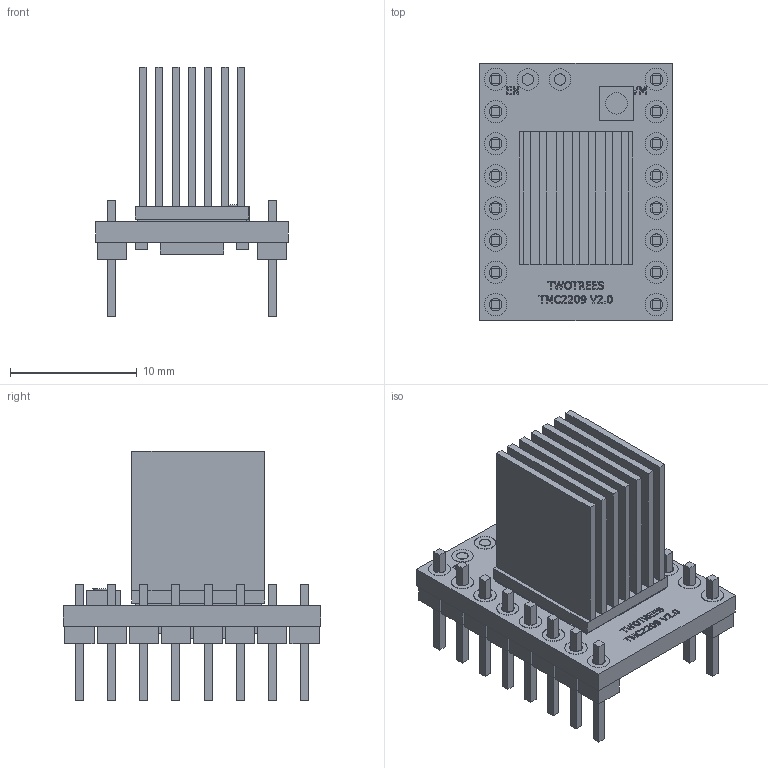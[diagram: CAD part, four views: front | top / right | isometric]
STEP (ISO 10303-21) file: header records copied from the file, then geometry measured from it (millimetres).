
FILE_DESCRIPTION(('Open CASCADE Model'),'2;1');
FILE_NAME('Open CASCADE Shape Model','2026-10-26T15:13:02',('Author'),( 'Open CASCADE'),'Open CASCADE STEP processor 7.8','Open CASCADE 7.8' ,'Unknown');
FILE_SCHEMA(('AUTOMOTIVE_DESIGN { 1 0 10303 214 1 1 1 1 }'));
Length unit declared in the file: millimetre
Products named in the file (81): TWOTREES_TMC2209_V20_COM_DISSIPADOR; pin_1; pad_1; header_spacer_1; pin_2; pad_2; header_spacer_2; pin_3; pad_3; header_spacer_3; pin_4; pad_4; header_spacer_4; pin_5; pad_5; header_spacer_5; pin_6; pad_6; header_spacer_6; pin_7; pad_7; header_spacer_7; pin_8; pad_8; header_spacer_8; pin_9; pad_9; header_spacer_9; pin_10; pad_10; header_spacer_10; pin_11; pad_11; header_spacer_11; pin_12; pad_12; header_spacer_12; pin_13; pad_13; header_spacer_13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
Assembly tree (80 placements, depth 2):
  TWOTREES_TMC2209_V20_COM_DISSIPADOR
    pin_1
    pad_1
    header_spacer_1
    pin_2
    pad_2
    header_spacer_2
    pin_3
    pad_3
    header_spacer_3
    pin_4
    pad_4
    header_spacer_4
    pin_5
    pad_5
    header_spacer_5
    pin_6
    pad_6
    header_spacer_6
    pin_7
    pad_7
    header_spacer_7
    pin_8
    pad_8
    header_spacer_8
    pin_9
    pad_9
    header_spacer_9
    pin_10
    pad_10
    header_spacer_10
    pin_11
    pad_11
    header_spacer_11
    pin_12
    pad_12
    header_spacer_12
    pin_13
    pad_13
    header_spacer_13
    pin_14
    pad_14
    header_spacer_14
    pin_15
    pad_15
    header_spacer_15
    pin_16
    pad_16
    header_spacer_16
    PCB_15p24x20p32
    thermal_copper
    thermal_adhesive
    heatsink_base
    heatsink_fin_0
    heatsink_fin_1
    heatsink_fin_2
    heatsink_fin_3
    heatsink_fin_4
    heatsink_fin_5
    heatsink_fin_6
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Bounding box: 15.24 x 20.32 x 19.71 mm (x, y, z)
Volume: 1249 mm3; surface area: 4132.9 mm2
Topology: 99 solids, 99 shells, 811 faces, 1839 edges, 1226 vertices
Faces by surface type: plane 586, extrusion 172, cylinder 53
Full cylindrical faces by diameter (mm): 0.9 x2, 1 x32, 1.7 x3, 1.76 x16
Entity records: 48860 total; most frequent: CARTESIAN_POINT 9547, DIRECTION 6515, VECTOR 4789, LINE 4617, ORIENTED_EDGE 3678, PCURVE 3678, DEFINITIONAL_REPRESENTATION 3678, EDGE_CURVE 1839
